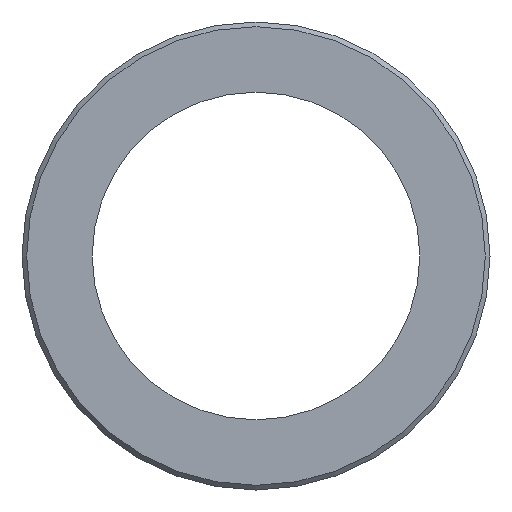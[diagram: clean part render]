
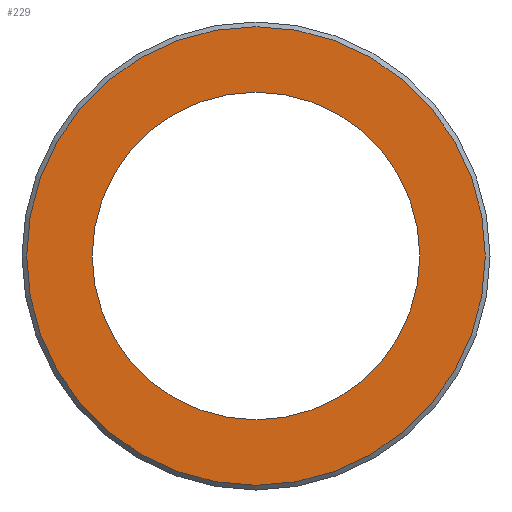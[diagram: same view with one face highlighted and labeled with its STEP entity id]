
A CAD part, left-side view. The second image highlights one B-rep face of the part: STEP entity #229.
In plain terms, the highlighted planar face has unit normal (-1, 0, 0).
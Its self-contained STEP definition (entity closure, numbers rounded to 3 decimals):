
#16=PLANE('',#257);
#32=FACE_BOUND('',#79,.T.);
#53=FACE_OUTER_BOUND('',#78,.T.);
#78=EDGE_LOOP('',(#183));
#79=EDGE_LOOP('',(#184));
#116=CIRCLE('',#256,7.84);
#117=CIRCLE('',#258,5.6);
#137=VERTEX_POINT('',#389);
#138=VERTEX_POINT('',#392);
#158=EDGE_CURVE('',#137,#137,#116,.T.);
#159=EDGE_CURVE('',#138,#138,#117,.T.);
#183=ORIENTED_EDGE('',*,*,#158,.F.);
#184=ORIENTED_EDGE('',*,*,#159,.F.);
#229=ADVANCED_FACE('',(#53,#32),#16,.T.);
#256=AXIS2_PLACEMENT_3D('',#390,#308,#309);
#257=AXIS2_PLACEMENT_3D('',#391,#310,#311);
#258=AXIS2_PLACEMENT_3D('',#393,#312,#313);
#308=DIRECTION('center_axis',(1.,0.,0.));
#309=DIRECTION('ref_axis',(0.,1.,0.));
#310=DIRECTION('center_axis',(-1.,0.,0.));
#311=DIRECTION('ref_axis',(0.,0.,1.));
#312=DIRECTION('center_axis',(-1.,0.,0.));
#313=DIRECTION('ref_axis',(0.,0.,1.));
#389=CARTESIAN_POINT('',(0.,-7.84,0.));
#390=CARTESIAN_POINT('Origin',(0.,0.,0.));
#391=CARTESIAN_POINT('Origin',(0.,-5.6,0.));
#392=CARTESIAN_POINT('',(0.,-5.6,0.));
#393=CARTESIAN_POINT('Origin',(0.,0.,0.));
